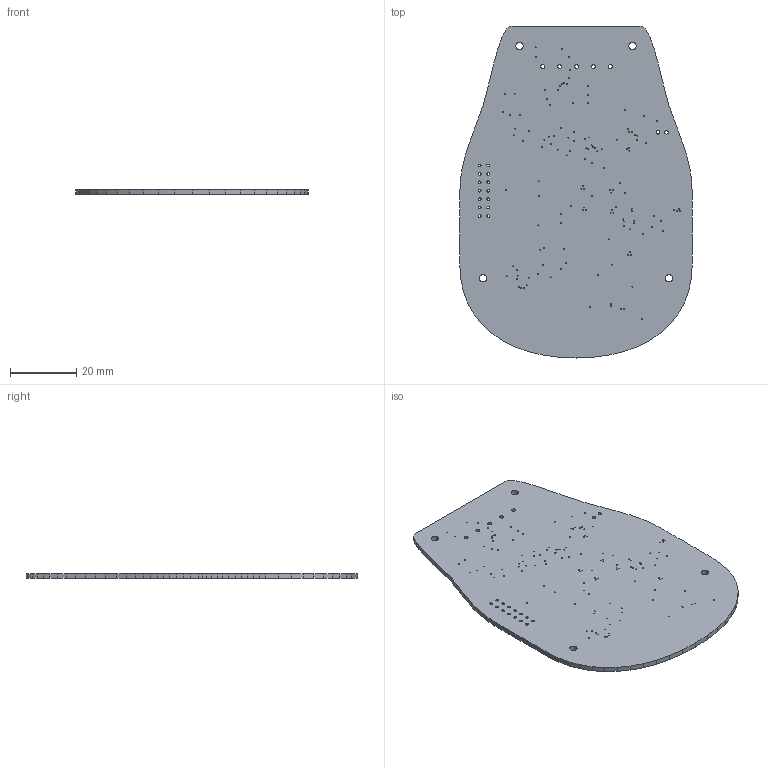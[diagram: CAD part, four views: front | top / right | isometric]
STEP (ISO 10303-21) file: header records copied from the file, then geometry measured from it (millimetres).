
FILE_DESCRIPTION(('KiCad electronic assembly'),'2;1');
FILE_NAME('Upper-bare.step','2026-11-05T00:07:30',('Pcbnew'),('Kicad'), 'Open CASCADE STEP processor 7.9','KiCad to STEP converter','Unknown' );
FILE_SCHEMA(('AUTOMOTIVE_DESIGN { 1 0 10303 214 1 1 1 1 }'));
Length unit declared in the file: millimetre
Products named in the file (2): Upper-bare 1; Upper_PCB
Assembly tree (1 placements, depth 2):
  Upper-bare 1
    Upper_PCB
Bounding box: 70 x 100 x 1.49 mm (x, y, z)
Volume: 8857.1 mm3; surface area: 12658.6 mm2
Topology: 1 solids, 1 shells, 260 faces, 774 edges, 516 vertices
Faces by surface type: cylinder 161, plane 99
Full cylindrical faces by diameter (mm): 0.3 x136, 0.8 x14, 1.1 x2, 1.2 x5, 2.2 x4
Entity records: 9541 total; most frequent: DIRECTION 1620, CARTESIAN_POINT 1552, ORIENTED_EDGE 1548, EDGE_CURVE 774, AXIS2_PLACEMENT_3D 584, FACE_BOUND 582, EDGE_LOOP 582, VERTEX_POINT 516
